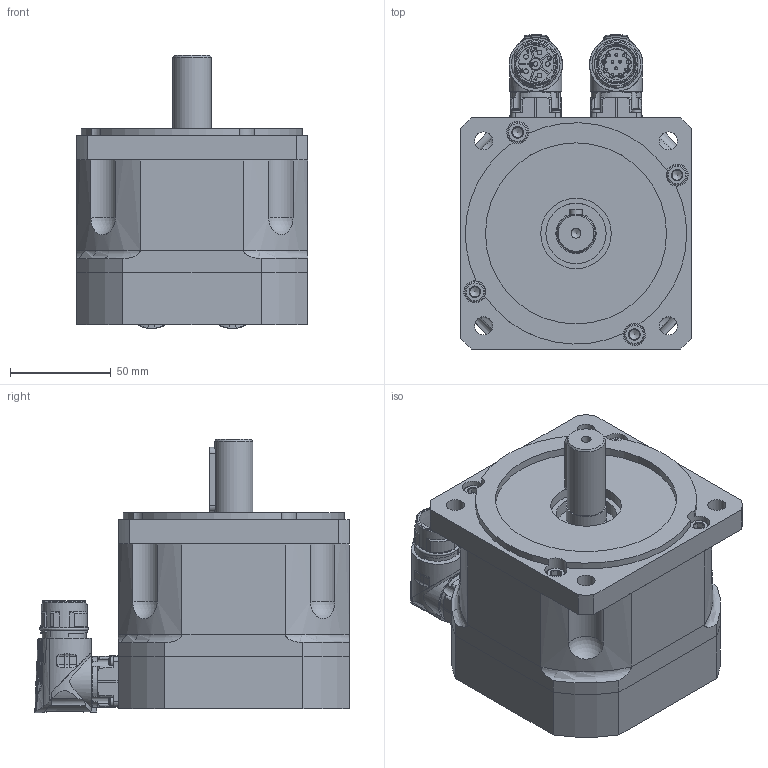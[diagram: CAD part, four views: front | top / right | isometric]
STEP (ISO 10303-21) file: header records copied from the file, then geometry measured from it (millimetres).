
FILE_DESCRIPTION(/* description */ (''),/* implementation_level */ '2;1');
FILE_NAME(/* name */ 'C:\Users\Public\Documents\Autodesk\Inventor LT 2014\Workspace\Motori Sito WEB\TG_COMPATTI\STEP_COMPATTI\DSM5_40_x097.stp',/* time_stamp */ '2021-03-27T09:22:48+01:00',/* author */ ('marcor'),/* organization */ (''),/* preprocessor_version */ 'ST-DEVELOPER v15.2',/* originating_system */ 'Autodesk Inventor LT ',/* authorisation */ '');
FILE_SCHEMA (('AUTOMOTIVE_DESIGN { 1 0 10303 214 3 1 1 }'));
Products named in the file (1): DSM5_40_x097
Bounding box: 115 x 156.5 x 135.81 mm (x, y, z)
Volume: 1197019.8 mm3; surface area: 175578.5 mm2
Topology: 16 solids, 26 shells, 1441 faces, 3783 edges, 2523 vertices
Faces by surface type: plane 524, cylinder 434, cone 279, bspline 113, torus 59, sphere 32
Full cylindrical faces by diameter (mm): 1.2 x12, 2.224 x8, 2.233 x6, 2.5 x8, 2.88 x8, 3.26 x8, 4.134 x4, 4.5 x2, 4.8 x8, 4.917 x9, 5 x4, 5.5 x7, 5.9 x2, 6 x8, 6.5 x8, 8.5 x4, 9 x4, 10 x12, 11 x8, 15.2 x1, 17.4 x3, 18 x1, 19 x2, 19.8 x1, 20 x2, 21.15 x4, 21.6 x1, 21.653 x2, 24.3 x2, 30 x1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
Entity records: 51634 total; most frequent: CARTESIAN_POINT 17759, ORIENTED_EDGE 6770, DIRECTION 6253, EDGE_CURVE 3385, AXIS2_PLACEMENT_3D 2531, VERTEX_POINT 2415, EDGE_LOOP 1918, ADVANCED_FACE 1441
